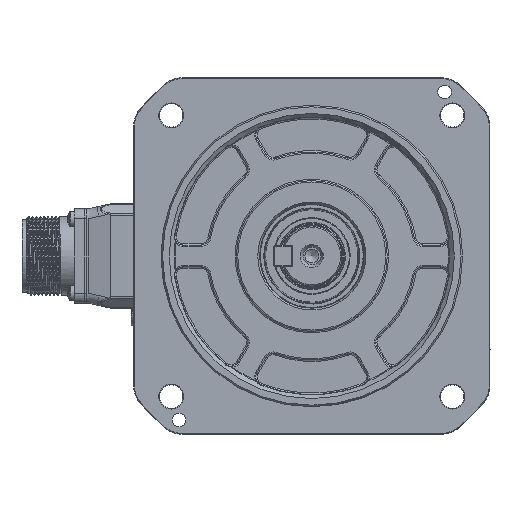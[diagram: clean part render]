
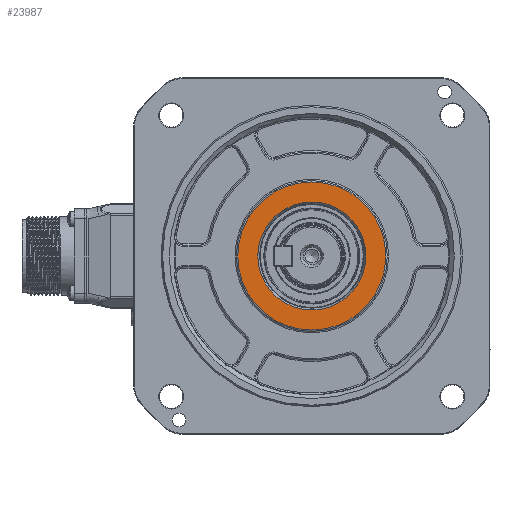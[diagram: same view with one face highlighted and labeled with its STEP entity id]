
A CAD part, left-side view. The second image highlights one B-rep face of the part: STEP entity #23987.
In plain terms, the highlighted planar face has unit normal (-1, 0, 0).
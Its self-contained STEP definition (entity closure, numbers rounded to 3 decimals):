
#13878 = CIRCLE ( 'NONE', #66717, 19.693 ) ;
#21511 = EDGE_LOOP ( 'NONE', ( #31727 ) ) ;
#23597 = FACE_BOUND ( 'NONE', #79915, .T. ) ;
#23987 = ADVANCED_FACE ( 'NONE', ( #23597, #40684 ), #40125, .F. ) ;
#24030 = AXIS2_PLACEMENT_3D ( 'NONE', #75424, #110207, #68008 ) ;
#27473 = DIRECTION ( 'NONE',  ( -1., 0., 0. ) ) ;
#31727 = ORIENTED_EDGE ( 'NONE', *, *, #70542, .T. ) ;
#40125 = PLANE ( 'NONE',  #24030 ) ;
#40684 = FACE_OUTER_BOUND ( 'NONE', #21511, .T. ) ;
#41019 = EDGE_CURVE ( 'NONE', #91990, #91990, #13878, .T. ) ;
#54254 = DIRECTION ( 'NONE',  ( 0., 0., -1. ) ) ;
#57086 = DIRECTION ( 'NONE',  ( -1., 0., 0. ) ) ;
#66363 = CARTESIAN_POINT ( 'NONE',  ( 0.8, 0., -19.693 ) ) ;
#66717 = AXIS2_PLACEMENT_3D ( 'NONE', #103321, #27473, #54254 ) ;
#68008 = DIRECTION ( 'NONE',  ( 0., 0., -1. ) ) ;
#70542 = EDGE_CURVE ( 'NONE', #78829, #78829, #103291, .T. ) ;
#70838 = CARTESIAN_POINT ( 'NONE',  ( 0.8, 0., -27. ) ) ;
#75424 = CARTESIAN_POINT ( 'NONE',  ( 0.8, 27.5, 0. ) ) ;
#78829 = VERTEX_POINT ( 'NONE', #70838 ) ;
#79915 = EDGE_LOOP ( 'NONE', ( #108510 ) ) ;
#91990 = VERTEX_POINT ( 'NONE', #66363 ) ;
#92980 = DIRECTION ( 'NONE',  ( 0., 0., -1. ) ) ;
#100966 = CARTESIAN_POINT ( 'NONE',  ( 0.8, 0., 0. ) ) ;
#103291 = CIRCLE ( 'NONE', #105068, 27. ) ;
#103321 = CARTESIAN_POINT ( 'NONE',  ( 0.8, 0., 0. ) ) ;
#105068 = AXIS2_PLACEMENT_3D ( 'NONE', #100966, #57086, #92980 ) ;
#108510 = ORIENTED_EDGE ( 'NONE', *, *, #41019, .F. ) ;
#110207 = DIRECTION ( 'NONE',  ( 1., 0., 0. ) ) ;
